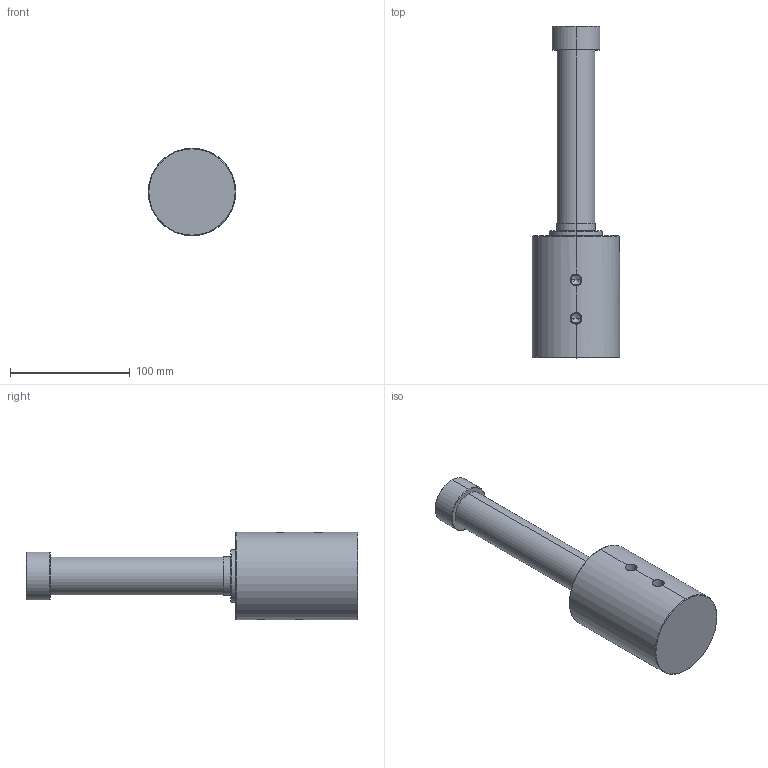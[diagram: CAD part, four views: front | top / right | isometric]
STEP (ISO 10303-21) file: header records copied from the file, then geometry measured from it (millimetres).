
FILE_DESCRIPTION((' '),'2;1');
FILE_NAME( 'TMG-4-255_step.prt.stp', '2024-08-27T14:05:43', (' '), ('--- Datakit www.datakit.com---'), ' Datakit CrossCadWare V2024.1 Dec 21 2023', 'Mastercam 2025', ' ');
FILE_SCHEMA(('AUTOMOTIVE_DESIGN { 1 0 10303 214 1 1 1 1 }'));
Length unit declared in the file: millimetre
Products named in the file (1): TMG-4-255_step
Bounding box: 73 x 277 x 73 mm (x, y, z)
Volume: 564645.4 mm3; surface area: 58247.8 mm2
Topology: 1 solids, 1 shells, 91 faces, 211 edges, 128 vertices
Faces by surface type: cylinder 39, cone 31, plane 21
Entity records: 2707 total; most frequent: CARTESIAN_POINT 622, DIRECTION 463, ORIENTED_EDGE 398, EDGE_CURVE 199, AXIS2_PLACEMENT_3D 191, VERTEX_POINT 128, EDGE_LOOP 109, CIRCLE 99
